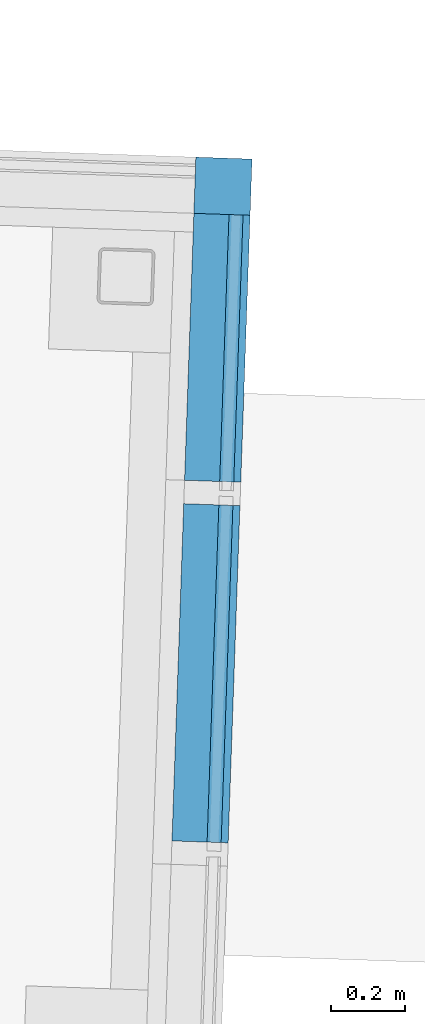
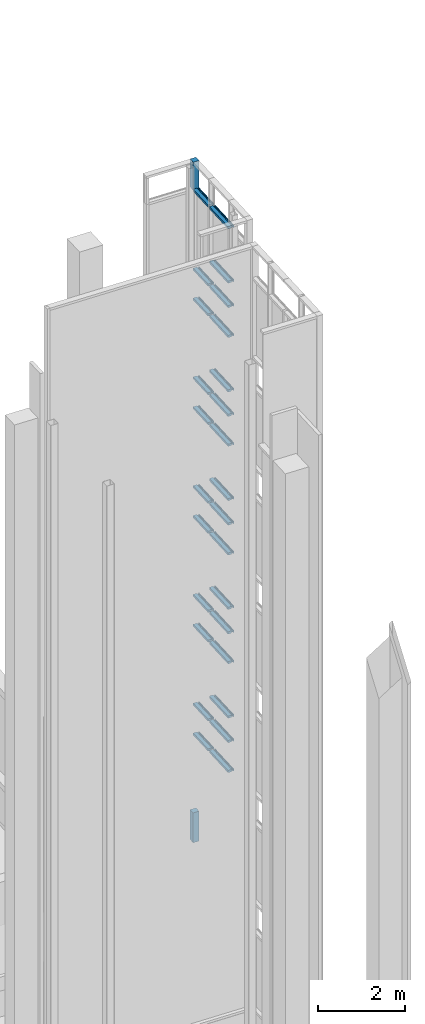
# One storey, part 20 of 44: 29 members, 2 elements without a shape of their own.
"""IFC2X3 building model written with IfcOpenShell, lengths in feet."""

import ifcopenshell
import ifcopenshell.guid

model = None  # the IFC model being written
_history = None  # IfcOwnerHistory: only IFC2X3 demands one
_inside = {}  # id of a spatial element -> (the spatial element, [elements in it])
_under = {}  # id of a project, library or spatial element -> (it, [spatial elements below it])
_declared = {}  # id of a project -> (the project, [libraries it declares])
_typed = {}  # id of a type object -> (the type object, [elements of that type])
_made_of = {}  # id of a material, layer set ... -> (it, [elements and type objects made of it])


def new_model(schema):
    """Start an empty IFC model of exactly this schema.

    Asked for "IFC4X3", IfcOpenShell would pick the latest addendum, in which some entities
    have other attributes; the version numbers below select the first issue.
    IFC2X3 requires an IfcOwnerHistory on every rooted entity: one is made here for all.
    """
    global model, _history
    if schema == "IFC4X3":
        model = ifcopenshell.file(schema_version=(4, 3, 0, 0))
    else:
        model = ifcopenshell.file(schema=schema)
    _inside.clear()
    _under.clear()
    _declared.clear()
    _typed.clear()
    _made_of.clear()
    _history = None
    if model.schema == "IFC2X3":
        org = make("IfcOrganization", Name="unknown")
        user = make(
            "IfcPersonAndOrganization",
            ThePerson=make("IfcPerson", FamilyName="unknown"),
            TheOrganization=org,
        )
        app = make(
            "IfcApplication",
            ApplicationDeveloper=org,
            Version="unknown",
            ApplicationFullName="unknown",
            ApplicationIdentifier="unknown",
        )
        _history = make(
            "IfcOwnerHistory",
            OwningUser=user,
            OwningApplication=app,
            ChangeAction="ADDED",
            CreationDate=0,
        )
    return model


def make(cls, **values):
    """One entity of the class cls with the attributes given. An attribute that is None is left unset."""
    return model.create_entity(
        cls, **{name: value for name, value in values.items() if value is not None}
    )


def entity(cls, *values):
    """Any entity or typed value of the class cls, its attributes in the order of the schema. None: left unset."""
    e = model.create_entity(cls)
    for i, value in enumerate(values):
        if value is not None:
            e[i] = value
    return e


def rooted(cls, **values):
    """An entity with a GlobalId (a new one), such as an element, a storey or a relation."""
    return make(cls, GlobalId=ifcopenshell.guid.new(), OwnerHistory=_history, **values)


def si_unit(unit_type, name, prefix=None):
    """IfcSIUnit, for example si_unit("LENGTHUNIT", "METRE", prefix="MILLI")."""
    return make("IfcSIUnit", UnitType=unit_type, Prefix=prefix, Name=name)


def converted_unit(unit_type, name, factor, base, dimensions=None, offset=None):
    """IfcConversionBasedUnit, such as the inch: factor (a typed value) times the base unit."""
    return make(
        "IfcConversionBasedUnit"
        if offset is None
        else "IfcConversionBasedUnitWithOffset",
        ConversionOffset=offset,
        Dimensions=None
        if dimensions is None
        else entity("IfcDimensionalExponents", *dimensions),
        UnitType=unit_type,
        Name=name,
        ConversionFactor=make(
            "IfcMeasureWithUnit", ValueComponent=factor, UnitComponent=base
        ),
    )


def derived_unit(unit_type, elements):
    """IfcDerivedUnit: a product of units, each with its exponent."""
    return make(
        "IfcDerivedUnit",
        Elements=[
            make("IfcDerivedUnitElement", Unit=unit, Exponent=power)
            for unit, power in elements
        ],
        UnitType=unit_type,
    )


def assignment(units):
    """IfcUnitAssignment: the units of a project."""
    return None if units is None else make("IfcUnitAssignment", Units=units)


def point(xyz):
    """IfcCartesianPoint."""
    return None if xyz is None else make("IfcCartesianPoint", Coordinates=xyz)


def direction(xyz):
    """IfcDirection."""
    return None if xyz is None else make("IfcDirection", DirectionRatios=xyz)


def frame(location, z_axis=None, x_axis=None):
    """IfcAxis2Placement3D, a coordinate frame: its origin and axes. An axis left out is left unset."""
    return make(
        "IfcAxis2Placement3D",
        Location=point(location),
        Axis=direction(z_axis),
        RefDirection=direction(x_axis),
    )


def frame_2d(location, x_axis=None):
    """IfcAxis2Placement2D, a coordinate frame in the plane: its origin and x axis."""
    return make(
        "IfcAxis2Placement2D", Location=point(location), RefDirection=direction(x_axis)
    )


def origin():
    """The frame at (0, 0, 0) with its axes left unset."""
    return frame((0.0, 0.0, 0.0))


def origin_2d_with_axis():
    """The frame at (0, 0) in the plane with the x axis (1, 0) written out."""
    return frame_2d((0.0, 0.0), x_axis=(1.0, 0.0))


def place(relative_to, where):
    """IfcLocalPlacement: puts the frame where relative to a parent placement (None: the world)."""
    return make(
        "IfcLocalPlacement", PlacementRelTo=relative_to, RelativePlacement=where
    )


def context(
    kind, dimensions, precision=None, world=None, true_north=None, identifier=None
):
    """IfcGeometricRepresentationContext, for example the 3D "Model" context."""
    return make(
        "IfcGeometricRepresentationContext",
        ContextIdentifier=identifier,
        ContextType=kind,
        CoordinateSpaceDimension=dimensions,
        Precision=precision,
        WorldCoordinateSystem=world,
        TrueNorth=true_north,
    )


def subcontext(parent, identifier, kind, view, scale=None):
    """IfcGeometricRepresentationSubContext, for example "Body" below "Model"."""
    return make(
        "IfcGeometricRepresentationSubContext",
        ContextIdentifier=identifier,
        ContextType=kind,
        ParentContext=parent,
        TargetScale=scale,
        TargetView=view,
    )


def project(units=None, contexts=None):
    """IfcProject with its units and contexts."""
    return rooted(
        "IfcProject",
        Name="project",
        RepresentationContexts=contexts,
        UnitsInContext=assignment(units),
    )


def spatial(cls, under=None, at=None, **own):
    """A site, building, storey or space (cls), placed at a placement, below another one or the project."""
    s = rooted(cls, ObjectPlacement=at, **own)
    if under is not None:
        _under.setdefault(under.id(), (under, []))[1].append(s)
    return s


def polyline(points):
    """IfcPolyline through the points."""
    return make("IfcPolyline", Points=[point(p) for p in points])


def profile(cls, at=None, kind="AREA", **sizes):
    """A parametric profile (cls). Its sizes go by their IFC names, for example OverallWidth=200.0."""
    return make(cls, ProfileType=kind, Position=at, **sizes)


def rectangle(**sizes):
    """IfcRectangleProfileDef."""
    return profile("IfcRectangleProfileDef", **sizes)


def outline(outer, holes=None, kind="AREA"):
    """IfcArbitraryClosedProfileDef: a profile drawn as a closed curve; with holes, ...WithVoids."""
    if holes is None:
        return make("IfcArbitraryClosedProfileDef", ProfileType=kind, OuterCurve=outer)
    return make(
        "IfcArbitraryProfileDefWithVoids",
        ProfileType=kind,
        OuterCurve=outer,
        InnerCurves=holes,
    )


def extrude(swept, where, along, depth):
    """IfcExtrudedAreaSolid: the profile swept, set in the frame where, extruded along a direction by depth."""
    return make(
        "IfcExtrudedAreaSolid",
        SweptArea=swept,
        Position=where,
        ExtrudedDirection=direction(along),
        Depth=depth,
    )


def shape(context_of_items, identifier, shape_type, items):
    """IfcShapeRepresentation: the items that make up one representation, for example the "Body"."""
    return make(
        "IfcShapeRepresentation",
        ContextOfItems=context_of_items,
        RepresentationIdentifier=identifier,
        RepresentationType=shape_type,
        Items=items,
    )


def material(Name=None, Category=None):
    """IfcMaterial."""
    return make("IfcMaterial", Name=Name, Category=Category)


def made_of(thing, what):
    """Note that an element or type object is made of a material, layer set ...; save() writes the relation."""
    if what is not None:
        _made_of.setdefault(what.id(), (what, []))[1].append(thing)
    return thing


def type_object(cls, material=None, **own):
    """A type object (cls), such as IfcWallType, which elements share."""
    return made_of(rooted(cls, **own), material)


def element(
    cls,
    number,
    at=None,
    inside=None,
    cuts=None,
    type_object=None,
    material=None,
    context=None,
    identifier="Body",
    shape_type=None,
    held_by="IfcProductDefinitionShape",
    body=None,
    shapes=None,
    **own,
):
    """One element of the class cls, such as IfcWall. Its Tag is "e" and its number.

    at: its placement. inside: the storey or other place that contains it. cuts: it is an
    opening in that element (IfcRelVoidsElement). A single representation is given by context,
    identifier, shape_type and body (its items); several are given by shapes. held_by: the class
    of the entity that holds the representations. save() writes the other relations.
    """
    e = rooted(cls, Tag="e%d" % number, ObjectPlacement=at, **own)
    if body is not None:
        shapes = [shape(context, identifier, shape_type, body)]
    if shapes is not None:
        e.Representation = make(held_by, Representations=shapes)
    if inside is not None:
        _inside.setdefault(inside.id(), (inside, []))[1].append(e)
    if cuts is not None:
        rooted(
            "IfcRelVoidsElement", RelatingBuildingElement=cuts, RelatedOpeningElement=e
        )
    if type_object is not None:
        _typed.setdefault(type_object.id(), (type_object, []))[1].append(e)
    return made_of(e, material)


def aggregate(whole, parts):
    """IfcRelAggregates: a whole, such as a stair, and the parts it consists of."""
    return rooted("IfcRelAggregates", RelatingObject=whole, RelatedObjects=parts)


def save(model, path):
    """Write the relations noted so far, then the file.

    IfcRelAggregates (storeys below a building ...), IfcRelContainedInSpatialStructure (elements
    in a storey), IfcRelDefinesByType, IfcRelAssociatesMaterial and IfcRelDeclares: one each for
    every whole, place, type object, material and project.
    """
    for whole, parts in _under.values():
        aggregate(whole, parts)
    for where, things in _inside.values():
        rooted(
            "IfcRelContainedInSpatialStructure",
            RelatedElements=things,
            RelatingStructure=where,
        )
    for kind, things in _typed.values():
        rooted("IfcRelDefinesByType", RelatedObjects=things, RelatingType=kind)
    for what, things in _made_of.values():
        rooted("IfcRelAssociatesMaterial", RelatedObjects=things, RelatingMaterial=what)
    for by, libraries in _declared.values():
        rooted("IfcRelDeclares", RelatingContext=by, RelatedDefinitions=libraries)
    model.write(path)


model = new_model("IFC2X3")

# Units and contexts
model_context = context("Model", 3, precision=0.0001, world=origin(), true_north=direction((0.999390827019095, 0.0348994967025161)))
body_context = subcontext(model_context, "Body", "Model", "MODEL_VIEW")
ifc_project = project(units=[converted_unit("LENGTHUNIT", "FOOT", entity("IfcRatioMeasure", 0.3048), si_unit("LENGTHUNIT", "METRE"), dimensions=[1, 0, 0, 0, 0, 0, 0]), converted_unit("AREAUNIT", "SQUARE FOOT", entity("IfcRatioMeasure", 0.09290304), si_unit("AREAUNIT", "SQUARE_METRE"), dimensions=[2, 0, 0, 0, 0, 0, 0]), converted_unit("VOLUMEUNIT", "CUBIC FOOT", entity("IfcRatioMeasure", 0.028316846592), si_unit("VOLUMEUNIT", "CUBIC_METRE"), dimensions=[3, 0, 0, 0, 0, 0, 0]), converted_unit("PLANEANGLEUNIT", "DEGREE", entity("IfcRatioMeasure", 0.0174532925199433), si_unit("PLANEANGLEUNIT", "RADIAN"), dimensions=[0, 0, 0, 0, 0, 0, 0]), si_unit("MASSUNIT", "GRAM", prefix="KILO"), si_unit("TIMEUNIT", "SECOND"), si_unit("FREQUENCYUNIT", "HERTZ"), si_unit("THERMODYNAMICTEMPERATUREUNIT", "DEGREE_CELSIUS"), derived_unit("THERMALTRANSMITTANCEUNIT", [(si_unit("MASSUNIT", "GRAM", prefix="KILO"), 1), (si_unit("THERMODYNAMICTEMPERATUREUNIT", "KELVIN"), -1), (si_unit("TIMEUNIT", "SECOND"), -3)]), derived_unit("VOLUMETRICFLOWRATEUNIT", [(si_unit("LENGTHUNIT", "METRE"), 3), (si_unit("TIMEUNIT", "SECOND"), -1)]), si_unit("ELECTRICCURRENTUNIT", "AMPERE"), si_unit("ELECTRICVOLTAGEUNIT", "VOLT"), si_unit("POWERUNIT", "WATT"), si_unit("FORCEUNIT", "NEWTON"), si_unit("ILLUMINANCEUNIT", "LUX"), si_unit("LUMINOUSFLUXUNIT", "LUMEN"), si_unit("LUMINOUSINTENSITYUNIT", "CANDELA"), derived_unit("USERDEFINED", [(si_unit("MASSUNIT", "GRAM", prefix="KILO"), -1), (si_unit("LENGTHUNIT", "METRE"), -2), (si_unit("TIMEUNIT", "SECOND"), 3), (si_unit("LUMINOUSFLUXUNIT", "LUMEN"), 1)]), derived_unit("LINEARVELOCITYUNIT", [(si_unit("LENGTHUNIT", "METRE"), 1), (si_unit("TIMEUNIT", "SECOND"), -1)]), si_unit("PRESSUREUNIT", "PASCAL"), derived_unit("USERDEFINED", [(si_unit("LENGTHUNIT", "METRE"), -2), (si_unit("MASSUNIT", "GRAM", prefix="KILO"), 1), (si_unit("TIMEUNIT", "SECOND"), -2)])], contexts=[model_context])

# Site, building, storey
site_placement = place(None, frame((892.518771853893, 322.38689265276, 0.00393700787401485), z_axis=(0.0, 0.0, 1.0), x_axis=(0.0348994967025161, 0.999390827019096, 0.0)))
site = spatial("IfcSite", under=ifc_project, at=site_placement, Name="Default", CompositionType="ELEMENT")
building_placement = place(site_placement, origin())
building = spatial("IfcBuilding", under=site, at=building_placement, CompositionType="ELEMENT")
storey_placement = place(building_placement, frame((0.0, 0.0, 544.75)))
storey = spatial("IfcBuildingStorey", under=building, at=storey_placement, Name="Exist Garage - Ground Level", CompositionType="ELEMENT", Elevation=544.75)

# Curtain wall, members
curtain_wall_type = type_object("IfcCurtainWallType", Name="Curtain Wall:(Existing) Curtainwall - Blank", PredefinedType="NOTDEFINED")
curtain_wall_1_placement = place(storey_placement, frame((0.0, 0.0, -544.75)))
curtain_wall_1 = element("IfcCurtainWall", 1, at=curtain_wall_1_placement, inside=storey, type_object=curtain_wall_type, Name="Curtain Wall:(Existing) Curtainwall - Blank", ObjectType="Curtain Wall:(Existing) Curtainwall - Blank")
ifc_material = material(Name="Metal - Aluminum")
member_1_placement = place(curtain_wall_1_placement, frame((0.0, 0.0, 544.75)))
member_1 = element("IfcMember", 2, at=member_1_placement, material=ifc_material, Name="Curtain Wall:(Existing) Curtainwall - Blank", ObjectType="Curtain Wall:(Existing) Curtainwall - Blank", context=body_context, shape_type="SweptSolid", body=[
    extrude(outline(polyline([(-0.104166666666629, -0.333333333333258), (0.104166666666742, -0.333333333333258), (0.104166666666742, -0.0208333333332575), (0.0260416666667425, -0.0208333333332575), (0.0260416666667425, 0.104166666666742), (0.104166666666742, 0.104166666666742), (0.104166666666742, 0.166666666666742), (-0.104166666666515, 0.166666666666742), (-0.104166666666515, 0.104166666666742), (-0.0260416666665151, 0.104166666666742), (-0.0260416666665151, -0.0208333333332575), (-0.104166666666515, -0.0208333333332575), (-0.104166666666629, -0.333333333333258)])), frame((113.92729680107, 230.93062014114, 19.5000000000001), z_axis=(-1.0, 0.0, 0.0), x_axis=(0.0, 0.0, -1.0)), (0.0, 0.0, 1.0), 2.37500186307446),
])
member_2_placement = place(curtain_wall_1_placement, frame((0.0, 0.0, 544.75)))
member_2 = element("IfcMember", 3, at=member_2_placement, material=ifc_material, Name="Curtain Wall:(Existing) Curtainwall - Blank", ObjectType="Curtain Wall:(Existing) Curtainwall - Blank", context=body_context, shape_type="SweptSolid", body=[
    extrude(outline(polyline([(-0.104166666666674, -0.333333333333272), (0.104166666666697, -0.333333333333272), (0.10416666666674, -0.0208333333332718), (0.0260416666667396, -0.0208333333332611), (0.0260416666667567, 0.104166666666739), (0.104166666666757, 0.104166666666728), (0.104166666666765, 0.166666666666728), (-0.104166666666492, 0.166666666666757), (-0.104166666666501, 0.104166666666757), (-0.0260416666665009, 0.104166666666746), (-0.0260416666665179, -0.020833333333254), (-0.104166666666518, -0.0208333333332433), (-0.104166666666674, -0.333333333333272)])), frame((111.343961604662, 230.93062014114, 19.5000000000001), z_axis=(-1.0, 0.0, 0.0), x_axis=(0.0, 0.0, -1.0)), (0.0, 0.0, 1.0), 3.00000000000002),
])
member_3_placement = place(curtain_wall_1_placement, frame((0.0, 0.0, 544.75)))
member_3 = element("IfcMember", 4, at=member_3_placement, material=ifc_material, Name="Curtain Wall:(Existing) Curtainwall - Blank", ObjectType="Curtain Wall:(Existing) Curtainwall - Blank", context=body_context, shape_type="SweptSolid", body=[
    extrude(outline(polyline([(-0.104166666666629, -0.333333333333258), (0.104166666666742, -0.333333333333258), (0.104166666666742, -0.0208333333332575), (0.0260416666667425, -0.0208333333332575), (0.0260416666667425, 0.104166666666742), (0.104166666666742, 0.104166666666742), (0.104166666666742, 0.166666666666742), (-0.104166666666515, 0.166666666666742), (-0.104166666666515, 0.104166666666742), (-0.0260416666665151, 0.104166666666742), (-0.0260416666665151, -0.0208333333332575), (-0.104166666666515, -0.0208333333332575), (-0.104166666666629, -0.333333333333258)])), frame((113.92729680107, 230.93062014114, 22.2500000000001), z_axis=(-1.0, 0.0, 0.0), x_axis=(0.0, 0.0, -1.0)), (0.0, 0.0, 1.0), 2.37500186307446),
])
member_4_placement = place(curtain_wall_1_placement, frame((0.0, 0.0, 544.75)))
member_4 = element("IfcMember", 5, at=member_4_placement, material=ifc_material, Name="Curtain Wall:(Existing) Curtainwall - Blank", ObjectType="Curtain Wall:(Existing) Curtainwall - Blank", context=body_context, shape_type="SweptSolid", body=[
    extrude(outline(polyline([(-0.104166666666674, -0.333333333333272), (0.104166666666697, -0.333333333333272), (0.10416666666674, -0.0208333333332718), (0.0260416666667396, -0.0208333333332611), (0.0260416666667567, 0.104166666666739), (0.104166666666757, 0.104166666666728), (0.104166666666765, 0.166666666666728), (-0.104166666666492, 0.166666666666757), (-0.104166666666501, 0.104166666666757), (-0.0260416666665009, 0.104166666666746), (-0.0260416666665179, -0.020833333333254), (-0.104166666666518, -0.0208333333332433), (-0.104166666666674, -0.333333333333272)])), frame((111.343961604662, 230.93062014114, 22.2500000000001), z_axis=(-1.0, 0.0, 0.0), x_axis=(0.0, 0.0, -1.0)), (0.0, 0.0, 1.0), 3.00000000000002),
])
member_5_placement = place(curtain_wall_1_placement, frame((0.0, 0.0, 544.75)))
member_5 = element("IfcMember", 6, at=member_5_placement, material=ifc_material, Name="Curtain Wall:(Existing) Curtainwall - Blank", ObjectType="Curtain Wall:(Existing) Curtainwall - Blank", context=body_context, shape_type="SweptSolid", body=[
    extrude(outline(polyline([(-0.104166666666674, -0.333333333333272), (0.104166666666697, -0.333333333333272), (0.10416666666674, -0.0208333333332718), (0.0260416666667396, -0.0208333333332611), (0.0260416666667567, 0.104166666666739), (0.104166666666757, 0.104166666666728), (0.104166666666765, 0.166666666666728), (-0.104166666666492, 0.166666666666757), (-0.104166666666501, 0.104166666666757), (-0.0260416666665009, 0.104166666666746), (-0.0260416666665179, -0.020833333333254), (-0.104166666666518, -0.0208333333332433), (-0.104166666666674, -0.333333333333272)])), frame((111.343961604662, 230.93062014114, 24.5000000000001), z_axis=(-1.0, 0.0, 0.0), x_axis=(0.0, 0.0, -1.0)), (0.0, 0.0, 1.0), 3.00000000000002),
])
member_6_placement = place(curtain_wall_1_placement, frame((0.0, 0.0, 544.75)))
member_6 = element("IfcMember", 7, at=member_6_placement, material=ifc_material, Name="Curtain Wall:(Existing) Curtainwall - Blank", ObjectType="Curtain Wall:(Existing) Curtainwall - Blank", context=body_context, shape_type="SweptSolid", body=[
    extrude(outline(polyline([(-0.104166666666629, -0.333333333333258), (0.104166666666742, -0.333333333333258), (0.104166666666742, -0.0208333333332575), (0.0260416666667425, -0.0208333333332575), (0.0260416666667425, 0.104166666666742), (0.104166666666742, 0.104166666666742), (0.104166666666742, 0.166666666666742), (-0.104166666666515, 0.166666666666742), (-0.104166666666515, 0.104166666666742), (-0.0260416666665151, 0.104166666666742), (-0.0260416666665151, -0.0208333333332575), (-0.104166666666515, -0.0208333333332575), (-0.104166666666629, -0.333333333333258)])), frame((113.92729680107, 230.93062014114, 29.5000000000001), z_axis=(-1.0, 0.0, 0.0), x_axis=(0.0, 0.0, -1.0)), (0.0, 0.0, 1.0), 2.37500186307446),
])
member_7_placement = place(curtain_wall_1_placement, frame((0.0, 0.0, 544.75)))
member_7 = element("IfcMember", 8, at=member_7_placement, material=ifc_material, Name="Curtain Wall:(Existing) Curtainwall - Blank", ObjectType="Curtain Wall:(Existing) Curtainwall - Blank", context=body_context, shape_type="SweptSolid", body=[
    extrude(outline(polyline([(-0.104166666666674, -0.333333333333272), (0.104166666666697, -0.333333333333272), (0.10416666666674, -0.0208333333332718), (0.0260416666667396, -0.0208333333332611), (0.0260416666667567, 0.104166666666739), (0.104166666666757, 0.104166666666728), (0.104166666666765, 0.166666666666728), (-0.104166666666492, 0.166666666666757), (-0.104166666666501, 0.104166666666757), (-0.0260416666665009, 0.104166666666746), (-0.0260416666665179, -0.020833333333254), (-0.104166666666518, -0.0208333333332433), (-0.104166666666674, -0.333333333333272)])), frame((111.343961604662, 230.93062014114, 29.5000000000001), z_axis=(-1.0, 0.0, 0.0), x_axis=(0.0, 0.0, -1.0)), (0.0, 0.0, 1.0), 3.00000000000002),
])
member_8_placement = place(curtain_wall_1_placement, frame((0.0, 0.0, 544.75)))
member_8 = element("IfcMember", 9, at=member_8_placement, material=ifc_material, Name="Curtain Wall:(Existing) Curtainwall - Blank", ObjectType="Curtain Wall:(Existing) Curtainwall - Blank", context=body_context, shape_type="SweptSolid", body=[
    extrude(outline(polyline([(-0.104166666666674, -0.333333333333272), (0.104166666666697, -0.333333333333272), (0.10416666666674, -0.0208333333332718), (0.0260416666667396, -0.0208333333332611), (0.0260416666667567, 0.104166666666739), (0.104166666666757, 0.104166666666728), (0.104166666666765, 0.166666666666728), (-0.104166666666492, 0.166666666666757), (-0.104166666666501, 0.104166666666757), (-0.0260416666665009, 0.104166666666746), (-0.0260416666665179, -0.020833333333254), (-0.104166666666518, -0.0208333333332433), (-0.104166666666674, -0.333333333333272)])), frame((111.343961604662, 230.93062014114, 32.2500000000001), z_axis=(-1.0, 0.0, 0.0), x_axis=(0.0, 0.0, -1.0)), (0.0, 0.0, 1.0), 3.00000000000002),
])
member_9_placement = place(curtain_wall_1_placement, frame((0.0, 0.0, 544.75)))
member_9 = element("IfcMember", 10, at=member_9_placement, material=ifc_material, Name="Curtain Wall:(Existing) Curtainwall - Blank", ObjectType="Curtain Wall:(Existing) Curtainwall - Blank", context=body_context, shape_type="SweptSolid", body=[
    extrude(outline(polyline([(-0.104166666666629, -0.333333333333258), (0.104166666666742, -0.333333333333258), (0.104166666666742, -0.0208333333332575), (0.0260416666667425, -0.0208333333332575), (0.0260416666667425, 0.104166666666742), (0.104166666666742, 0.104166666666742), (0.104166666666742, 0.166666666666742), (-0.104166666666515, 0.166666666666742), (-0.104166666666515, 0.104166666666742), (-0.0260416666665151, 0.104166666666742), (-0.0260416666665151, -0.0208333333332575), (-0.104166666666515, -0.0208333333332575), (-0.104166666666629, -0.333333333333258)])), frame((113.92729680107, 230.93062014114, 32.2500000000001), z_axis=(-1.0, 0.0, 0.0), x_axis=(0.0, 0.0, -1.0)), (0.0, 0.0, 1.0), 2.37500186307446),
])
member_10_placement = place(curtain_wall_1_placement, frame((0.0, 0.0, 544.75)))
member_10 = element("IfcMember", 11, at=member_10_placement, material=ifc_material, Name="Curtain Wall:(Existing) Curtainwall - Blank", ObjectType="Curtain Wall:(Existing) Curtainwall - Blank", context=body_context, shape_type="SweptSolid", body=[
    extrude(outline(polyline([(-0.104166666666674, -0.333333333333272), (0.104166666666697, -0.333333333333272), (0.10416666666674, -0.0208333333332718), (0.0260416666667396, -0.0208333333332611), (0.0260416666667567, 0.104166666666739), (0.104166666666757, 0.104166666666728), (0.104166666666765, 0.166666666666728), (-0.104166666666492, 0.166666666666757), (-0.104166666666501, 0.104166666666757), (-0.0260416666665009, 0.104166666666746), (-0.0260416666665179, -0.020833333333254), (-0.104166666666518, -0.0208333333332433), (-0.104166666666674, -0.333333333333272)])), frame((111.343961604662, 230.93062014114, 34.5000000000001), z_axis=(-1.0, 0.0, 0.0), x_axis=(0.0, 0.0, -1.0)), (0.0, 0.0, 1.0), 3.00000000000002),
])
member_11_placement = place(curtain_wall_1_placement, frame((0.0, 0.0, 544.75)))
member_11 = element("IfcMember", 12, at=member_11_placement, material=ifc_material, Name="Curtain Wall:(Existing) Curtainwall - Blank", ObjectType="Curtain Wall:(Existing) Curtainwall - Blank", context=body_context, shape_type="SweptSolid", body=[
    extrude(outline(polyline([(-0.104166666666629, -0.333333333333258), (0.104166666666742, -0.333333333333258), (0.104166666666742, -0.0208333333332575), (0.0260416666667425, -0.0208333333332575), (0.0260416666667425, 0.104166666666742), (0.104166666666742, 0.104166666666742), (0.104166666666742, 0.166666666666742), (-0.104166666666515, 0.166666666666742), (-0.104166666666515, 0.104166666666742), (-0.0260416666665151, 0.104166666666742), (-0.0260416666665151, -0.0208333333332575), (-0.104166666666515, -0.0208333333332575), (-0.104166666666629, -0.333333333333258)])), frame((113.92729680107, 230.93062014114, 39.5000000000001), z_axis=(-1.0, 0.0, 0.0), x_axis=(0.0, 0.0, -1.0)), (0.0, 0.0, 1.0), 2.37500186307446),
])
member_12_placement = place(curtain_wall_1_placement, frame((0.0, 0.0, 544.75)))
member_12 = element("IfcMember", 13, at=member_12_placement, material=ifc_material, Name="Curtain Wall:(Existing) Curtainwall - Blank", ObjectType="Curtain Wall:(Existing) Curtainwall - Blank", context=body_context, shape_type="SweptSolid", body=[
    extrude(outline(polyline([(-0.104166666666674, -0.333333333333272), (0.104166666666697, -0.333333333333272), (0.10416666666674, -0.0208333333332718), (0.0260416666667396, -0.0208333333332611), (0.0260416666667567, 0.104166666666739), (0.104166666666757, 0.104166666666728), (0.104166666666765, 0.166666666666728), (-0.104166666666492, 0.166666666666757), (-0.104166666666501, 0.104166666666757), (-0.0260416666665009, 0.104166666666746), (-0.0260416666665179, -0.020833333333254), (-0.104166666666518, -0.0208333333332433), (-0.104166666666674, -0.333333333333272)])), frame((111.343961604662, 230.93062014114, 39.5000000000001), z_axis=(-1.0, 0.0, 0.0), x_axis=(0.0, 0.0, -1.0)), (0.0, 0.0, 1.0), 3.00000000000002),
])
member_13_placement = place(curtain_wall_1_placement, frame((0.0, 0.0, 544.75)))
member_13 = element("IfcMember", 14, at=member_13_placement, material=ifc_material, Name="Curtain Wall:(Existing) Curtainwall - Blank", ObjectType="Curtain Wall:(Existing) Curtainwall - Blank", context=body_context, shape_type="SweptSolid", body=[
    extrude(outline(polyline([(-0.104166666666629, -0.333333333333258), (0.104166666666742, -0.333333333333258), (0.104166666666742, -0.0208333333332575), (0.0260416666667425, -0.0208333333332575), (0.0260416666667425, 0.104166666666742), (0.104166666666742, 0.104166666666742), (0.104166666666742, 0.166666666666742), (-0.104166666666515, 0.166666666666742), (-0.104166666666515, 0.104166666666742), (-0.0260416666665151, 0.104166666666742), (-0.0260416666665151, -0.0208333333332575), (-0.104166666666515, -0.0208333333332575), (-0.104166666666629, -0.333333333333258)])), frame((113.92729680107, 230.93062014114, 42.2500000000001), z_axis=(-1.0, 0.0, 0.0), x_axis=(0.0, 0.0, -1.0)), (0.0, 0.0, 1.0), 2.37500186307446),
])
member_14_placement = place(curtain_wall_1_placement, frame((0.0, 0.0, 544.75)))
member_14 = element("IfcMember", 15, at=member_14_placement, material=ifc_material, Name="Curtain Wall:(Existing) Curtainwall - Blank", ObjectType="Curtain Wall:(Existing) Curtainwall - Blank", context=body_context, shape_type="SweptSolid", body=[
    extrude(outline(polyline([(-0.104166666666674, -0.333333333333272), (0.104166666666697, -0.333333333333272), (0.10416666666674, -0.0208333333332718), (0.0260416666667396, -0.0208333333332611), (0.0260416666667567, 0.104166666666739), (0.104166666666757, 0.104166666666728), (0.104166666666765, 0.166666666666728), (-0.104166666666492, 0.166666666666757), (-0.104166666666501, 0.104166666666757), (-0.0260416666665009, 0.104166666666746), (-0.0260416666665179, -0.020833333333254), (-0.104166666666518, -0.0208333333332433), (-0.104166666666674, -0.333333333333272)])), frame((111.343961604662, 230.93062014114, 42.2500000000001), z_axis=(-1.0, 0.0, 0.0), x_axis=(0.0, 0.0, -1.0)), (0.0, 0.0, 1.0), 3.00000000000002),
])
member_15_placement = place(curtain_wall_1_placement, frame((0.0, 0.0, 544.75)))
member_15 = element("IfcMember", 16, at=member_15_placement, material=ifc_material, Name="Curtain Wall:(Existing) Curtainwall - Blank", ObjectType="Curtain Wall:(Existing) Curtainwall - Blank", context=body_context, shape_type="SweptSolid", body=[
    extrude(outline(polyline([(-0.104166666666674, -0.333333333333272), (0.104166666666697, -0.333333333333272), (0.10416666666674, -0.0208333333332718), (0.0260416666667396, -0.0208333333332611), (0.0260416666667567, 0.104166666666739), (0.104166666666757, 0.104166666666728), (0.104166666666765, 0.166666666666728), (-0.104166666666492, 0.166666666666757), (-0.104166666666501, 0.104166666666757), (-0.0260416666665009, 0.104166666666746), (-0.0260416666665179, -0.020833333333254), (-0.104166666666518, -0.0208333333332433), (-0.104166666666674, -0.333333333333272)])), frame((111.343961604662, 230.93062014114, 44.5000000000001), z_axis=(-1.0, 0.0, 0.0), x_axis=(0.0, 0.0, -1.0)), (0.0, 0.0, 1.0), 3.00000000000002),
])
member_16_placement = place(curtain_wall_1_placement, frame((0.0, 0.0, 544.75)))
member_16 = element("IfcMember", 17, at=member_16_placement, material=ifc_material, Name="Curtain Wall:(Existing) Curtainwall - Blank", ObjectType="Curtain Wall:(Existing) Curtainwall - Blank", context=body_context, shape_type="SweptSolid", body=[
    extrude(outline(polyline([(-0.104166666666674, -0.333333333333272), (0.104166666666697, -0.333333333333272), (0.10416666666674, -0.0208333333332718), (0.0260416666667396, -0.0208333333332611), (0.0260416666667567, 0.104166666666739), (0.104166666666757, 0.104166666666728), (0.104166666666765, 0.166666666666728), (-0.104166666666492, 0.166666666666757), (-0.104166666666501, 0.104166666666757), (-0.0260416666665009, 0.104166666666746), (-0.0260416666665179, -0.020833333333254), (-0.104166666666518, -0.0208333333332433), (-0.104166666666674, -0.333333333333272)])), frame((111.343961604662, 230.93062014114, 49.5000000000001), z_axis=(-1.0, 0.0, 0.0), x_axis=(0.0, 0.0, -1.0)), (0.0, 0.0, 1.0), 3.00000000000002),
])
member_17_placement = place(curtain_wall_1_placement, frame((0.0, 0.0, 544.75)))
member_17 = element("IfcMember", 18, at=member_17_placement, material=ifc_material, Name="Curtain Wall:(Existing) Curtainwall - Blank", ObjectType="Curtain Wall:(Existing) Curtainwall - Blank", context=body_context, shape_type="SweptSolid", body=[
    extrude(outline(polyline([(-0.104166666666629, -0.333333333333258), (0.104166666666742, -0.333333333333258), (0.104166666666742, -0.0208333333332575), (0.0260416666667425, -0.0208333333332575), (0.0260416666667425, 0.104166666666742), (0.104166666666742, 0.104166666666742), (0.104166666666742, 0.166666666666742), (-0.104166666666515, 0.166666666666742), (-0.104166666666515, 0.104166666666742), (-0.0260416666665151, 0.104166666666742), (-0.0260416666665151, -0.0208333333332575), (-0.104166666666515, -0.0208333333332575), (-0.104166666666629, -0.333333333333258)])), frame((113.92729680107, 230.93062014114, 49.5000000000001), z_axis=(-1.0, 0.0, 0.0), x_axis=(0.0, 0.0, -1.0)), (0.0, 0.0, 1.0), 2.37500186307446),
])
member_18_placement = place(curtain_wall_1_placement, frame((0.0, 0.0, 544.75)))
member_18 = element("IfcMember", 19, at=member_18_placement, material=ifc_material, Name="Curtain Wall:(Existing) Curtainwall - Blank", ObjectType="Curtain Wall:(Existing) Curtainwall - Blank", context=body_context, shape_type="SweptSolid", body=[
    extrude(outline(polyline([(-0.104166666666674, -0.333333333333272), (0.104166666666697, -0.333333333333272), (0.10416666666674, -0.0208333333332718), (0.0260416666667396, -0.0208333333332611), (0.0260416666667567, 0.104166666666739), (0.104166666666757, 0.104166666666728), (0.104166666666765, 0.166666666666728), (-0.104166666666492, 0.166666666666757), (-0.104166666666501, 0.104166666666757), (-0.0260416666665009, 0.104166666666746), (-0.0260416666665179, -0.020833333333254), (-0.104166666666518, -0.0208333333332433), (-0.104166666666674, -0.333333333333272)])), frame((111.343961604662, 230.93062014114, 52.2500000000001), z_axis=(-1.0, 0.0, 0.0), x_axis=(0.0, 0.0, -1.0)), (0.0, 0.0, 1.0), 3.00000000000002),
])
member_19_placement = place(curtain_wall_1_placement, frame((0.0, 0.0, 544.75)))
member_19 = element("IfcMember", 20, at=member_19_placement, material=ifc_material, Name="Curtain Wall:(Existing) Curtainwall - Blank", ObjectType="Curtain Wall:(Existing) Curtainwall - Blank", context=body_context, shape_type="SweptSolid", body=[
    extrude(outline(polyline([(-0.104166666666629, -0.333333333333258), (0.104166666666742, -0.333333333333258), (0.104166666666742, -0.0208333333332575), (0.0260416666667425, -0.0208333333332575), (0.0260416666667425, 0.104166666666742), (0.104166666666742, 0.104166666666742), (0.104166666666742, 0.166666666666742), (-0.104166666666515, 0.166666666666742), (-0.104166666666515, 0.104166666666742), (-0.0260416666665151, 0.104166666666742), (-0.0260416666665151, -0.0208333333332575), (-0.104166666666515, -0.0208333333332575), (-0.104166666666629, -0.333333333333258)])), frame((113.92729680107, 230.93062014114, 52.2500000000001), z_axis=(-1.0, 0.0, 0.0), x_axis=(0.0, 0.0, -1.0)), (0.0, 0.0, 1.0), 2.37500186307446),
])
member_20_placement = place(curtain_wall_1_placement, frame((0.0, 0.0, 544.75)))
member_20 = element("IfcMember", 21, at=member_20_placement, material=ifc_material, Name="Curtain Wall:(Existing) Curtainwall - Blank", ObjectType="Curtain Wall:(Existing) Curtainwall - Blank", context=body_context, shape_type="SweptSolid", body=[
    extrude(outline(polyline([(-0.104166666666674, -0.333333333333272), (0.104166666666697, -0.333333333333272), (0.10416666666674, -0.0208333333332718), (0.0260416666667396, -0.0208333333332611), (0.0260416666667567, 0.104166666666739), (0.104166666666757, 0.104166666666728), (0.104166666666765, 0.166666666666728), (-0.104166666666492, 0.166666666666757), (-0.104166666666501, 0.104166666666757), (-0.0260416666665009, 0.104166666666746), (-0.0260416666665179, -0.020833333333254), (-0.104166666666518, -0.0208333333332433), (-0.104166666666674, -0.333333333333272)])), frame((111.343961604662, 230.93062014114, 54.5000000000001), z_axis=(-1.0, 0.0, 0.0), x_axis=(0.0, 0.0, -1.0)), (0.0, 0.0, 1.0), 3.00000000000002),
])
member_21_placement = place(curtain_wall_1_placement, frame((0.0, 0.0, 544.75)))
member_21 = element("IfcMember", 22, at=member_21_placement, material=ifc_material, Name="Curtain Wall:(Existing) Curtainwall - Blank", ObjectType="Curtain Wall:(Existing) Curtainwall - Blank", context=body_context, shape_type="SweptSolid", body=[
    extrude(outline(polyline([(-0.104166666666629, -0.333333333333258), (0.104166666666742, -0.333333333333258), (0.104166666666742, -0.0208333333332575), (0.0260416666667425, -0.0208333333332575), (0.0260416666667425, 0.104166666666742), (0.104166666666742, 0.104166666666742), (0.104166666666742, 0.166666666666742), (-0.104166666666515, 0.166666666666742), (-0.104166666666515, 0.104166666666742), (-0.0260416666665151, 0.104166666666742), (-0.0260416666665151, -0.0208333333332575), (-0.104166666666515, -0.0208333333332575), (-0.104166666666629, -0.333333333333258)])), frame((113.92729680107, 230.93062014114, 59.5000000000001), z_axis=(-1.0, 0.0, 0.0), x_axis=(0.0, 0.0, -1.0)), (0.0, 0.0, 1.0), 2.37500186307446),
])
member_22_placement = place(curtain_wall_1_placement, frame((0.0, 0.0, 544.75)))
member_22 = element("IfcMember", 23, at=member_22_placement, material=ifc_material, Name="Curtain Wall:(Existing) Curtainwall - Blank", ObjectType="Curtain Wall:(Existing) Curtainwall - Blank", context=body_context, shape_type="SweptSolid", body=[
    extrude(outline(polyline([(-0.104166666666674, -0.333333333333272), (0.104166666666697, -0.333333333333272), (0.10416666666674, -0.0208333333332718), (0.0260416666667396, -0.0208333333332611), (0.0260416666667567, 0.104166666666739), (0.104166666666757, 0.104166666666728), (0.104166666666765, 0.166666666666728), (-0.104166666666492, 0.166666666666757), (-0.104166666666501, 0.104166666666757), (-0.0260416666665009, 0.104166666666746), (-0.0260416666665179, -0.020833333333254), (-0.104166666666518, -0.0208333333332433), (-0.104166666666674, -0.333333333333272)])), frame((111.343961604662, 230.93062014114, 59.5000000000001), z_axis=(-1.0, 0.0, 0.0), x_axis=(0.0, 0.0, -1.0)), (0.0, 0.0, 1.0), 3.00000000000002),
])
member_23_placement = place(curtain_wall_1_placement, frame((0.0, 0.0, 544.75)))
member_23 = element("IfcMember", 24, at=member_23_placement, material=ifc_material, Name="Curtain Wall:(Existing) Curtainwall - Blank", ObjectType="Curtain Wall:(Existing) Curtainwall - Blank", context=body_context, shape_type="SweptSolid", body=[
    extrude(outline(polyline([(-0.104166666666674, -0.333333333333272), (0.104166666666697, -0.333333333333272), (0.10416666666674, -0.0208333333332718), (0.0260416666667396, -0.0208333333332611), (0.0260416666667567, 0.104166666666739), (0.104166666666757, 0.104166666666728), (0.104166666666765, 0.166666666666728), (-0.104166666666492, 0.166666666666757), (-0.104166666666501, 0.104166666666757), (-0.0260416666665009, 0.104166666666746), (-0.0260416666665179, -0.020833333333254), (-0.104166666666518, -0.0208333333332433), (-0.104166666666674, -0.333333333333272)])), frame((111.343961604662, 230.93062014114, 62.2500000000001), z_axis=(-1.0, 0.0, 0.0), x_axis=(0.0, 0.0, -1.0)), (0.0, 0.0, 1.0), 3.00000000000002),
])
member_24_placement = place(curtain_wall_1_placement, frame((0.0, 0.0, 544.75)))
member_24 = element("IfcMember", 25, at=member_24_placement, material=ifc_material, Name="Curtain Wall:(Existing) Curtainwall - Blank", ObjectType="Curtain Wall:(Existing) Curtainwall - Blank", context=body_context, shape_type="SweptSolid", body=[
    extrude(outline(polyline([(-0.104166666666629, -0.333333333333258), (0.104166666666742, -0.333333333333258), (0.104166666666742, -0.0208333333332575), (0.0260416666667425, -0.0208333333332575), (0.0260416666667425, 0.104166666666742), (0.104166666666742, 0.104166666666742), (0.104166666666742, 0.166666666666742), (-0.104166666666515, 0.166666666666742), (-0.104166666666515, 0.104166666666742), (-0.0260416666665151, 0.104166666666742), (-0.0260416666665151, -0.0208333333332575), (-0.104166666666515, -0.0208333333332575), (-0.104166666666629, -0.333333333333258)])), frame((113.92729680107, 230.93062014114, 62.2500000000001), z_axis=(-1.0, 0.0, 0.0), x_axis=(0.0, 0.0, -1.0)), (0.0, 0.0, 1.0), 2.37500186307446),
])
member_25_placement = place(curtain_wall_1_placement, frame((0.0, 0.0, 544.75)))
member_25 = element("IfcMember", 26, at=member_25_placement, material=ifc_material, Name="Curtain Wall:(Existing) Curtainwall - Blank", ObjectType="Curtain Wall:(Existing) Curtainwall - Blank", context=body_context, shape_type="SweptSolid", body=[
    extrude(outline(polyline([(-0.104166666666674, -0.333333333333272), (0.104166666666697, -0.333333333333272), (0.10416666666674, -0.0208333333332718), (0.0260416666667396, -0.0208333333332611), (0.0260416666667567, 0.104166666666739), (0.104166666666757, 0.104166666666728), (0.104166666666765, 0.166666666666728), (-0.104166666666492, 0.166666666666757), (-0.104166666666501, 0.104166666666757), (-0.0260416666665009, 0.104166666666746), (-0.0260416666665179, -0.020833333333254), (-0.104166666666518, -0.0208333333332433), (-0.104166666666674, -0.333333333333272)])), frame((111.343961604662, 230.93062014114, 64.5000000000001), z_axis=(-1.0, 0.0, 0.0), x_axis=(0.0, 0.0, -1.0)), (0.0, 0.0, 1.0), 3.00000000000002),
])
member_26_placement = place(curtain_wall_1_placement, frame((0.0, 0.0, 544.75)))
member_26 = element("IfcMember", 27, at=member_26_placement, material=ifc_material, Name="Curtain Wall:(Existing) Curtainwall - Blank", ObjectType="Curtain Wall:(Existing) Curtainwall - Blank", context=body_context, shape_type="SweptSolid", body=[
    extrude(outline(polyline([(-0.104166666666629, -0.333333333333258), (0.104166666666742, -0.333333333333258), (0.104166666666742, -0.0208333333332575), (0.0260416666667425, -0.0208333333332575), (0.0260416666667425, 0.104166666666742), (0.104166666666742, 0.104166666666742), (0.104166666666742, 0.166666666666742), (-0.104166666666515, 0.166666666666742), (-0.104166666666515, 0.104166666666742), (-0.0260416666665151, 0.104166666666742), (-0.0260416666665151, -0.0208333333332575), (-0.104166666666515, -0.0208333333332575), (-0.104166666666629, -0.333333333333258)])), frame((113.92729680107, 230.93062014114, 69.5000000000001), z_axis=(-1.0, 0.0, 0.0), x_axis=(0.0, 0.0, -1.0)), (0.0, 0.0, 1.0), 2.37500186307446),
])
member_27_placement = place(curtain_wall_1_placement, frame((0.0, 0.0, 544.75)))
member_27 = element("IfcMember", 28, at=member_27_placement, material=ifc_material, Name="Curtain Wall:(Existing) Curtainwall - Blank", ObjectType="Curtain Wall:(Existing) Curtainwall - Blank", context=body_context, shape_type="SweptSolid", body=[
    extrude(outline(polyline([(-0.104166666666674, -0.333333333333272), (0.104166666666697, -0.333333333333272), (0.10416666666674, -0.0208333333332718), (0.0260416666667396, -0.0208333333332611), (0.0260416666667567, 0.104166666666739), (0.104166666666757, 0.104166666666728), (0.104166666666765, 0.166666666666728), (-0.104166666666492, 0.166666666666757), (-0.104166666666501, 0.104166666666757), (-0.0260416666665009, 0.104166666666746), (-0.0260416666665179, -0.020833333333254), (-0.104166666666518, -0.0208333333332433), (-0.104166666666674, -0.333333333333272)])), frame((111.343961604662, 230.93062014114, 69.5000000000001), z_axis=(-1.0, 0.0, 0.0), x_axis=(0.0, 0.0, -1.0)), (0.0, 0.0, 1.0), 3.00000000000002),
])
aggregate(curtain_wall_1, [member_1, member_2, member_3, member_4, member_5, member_6, member_7, member_8, member_9, member_10, member_11, member_12, member_13, member_14, member_15, member_16, member_17, member_18, member_19, member_20, member_21, member_22, member_23, member_24, member_25, member_26, member_27])

curtain_wall_2_placement = place(storey_placement, frame((0.0, 0.0, -544.75)))
curtain_wall_2 = element("IfcCurtainWall", 29, at=curtain_wall_2_placement, inside=storey, type_object=curtain_wall_type, Name="Curtain Wall:(Existing) Curtainwall - Blank", ObjectType="Curtain Wall:(Existing) Curtainwall - Blank")
member_28_placement = place(curtain_wall_2_placement, frame((0.0, 0.0, 544.75)))
member_28 = element("IfcMember", 30, at=member_28_placement, material=ifc_material, Name="Curtain Wall:(Existing) Curtainwall - Blank", ObjectType="Curtain Wall:(Existing) Curtainwall - Blank", context=body_context, shape_type="SweptSolid", body=[
    extrude(rectangle(XDim=0.5, YDim=0.5, at=origin_2d_with_axis()), frame((114.177296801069, 231.013953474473, 72.0833333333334), z_axis=(0.0, 0.0, -1.0), x_axis=(-1.0, 0.0, 0.0)), (0.0, 0.0, 1.0), 2.58333333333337),
])
member_29_placement = place(curtain_wall_2_placement, frame((0.0, 0.0, 544.75)))
member_29 = element("IfcMember", 31, at=member_29_placement, material=ifc_material, Name="Curtain Wall:(Existing) Curtainwall - Blank", ObjectType="Curtain Wall:(Existing) Curtainwall - Blank", context=body_context, shape_type="SweptSolid", body=[
    extrude(rectangle(XDim=0.5, YDim=0.5, at=origin_2d_with_axis()), frame((114.177296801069, 231.013953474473, 12.25), z_axis=(0.0, 0.0, -1.0), x_axis=(-1.0, 0.0, 0.0)), (0.0, 0.0, 1.0), 2.75),
])
aggregate(curtain_wall_2, [member_28, member_29])

save(model, "model.ifc")
